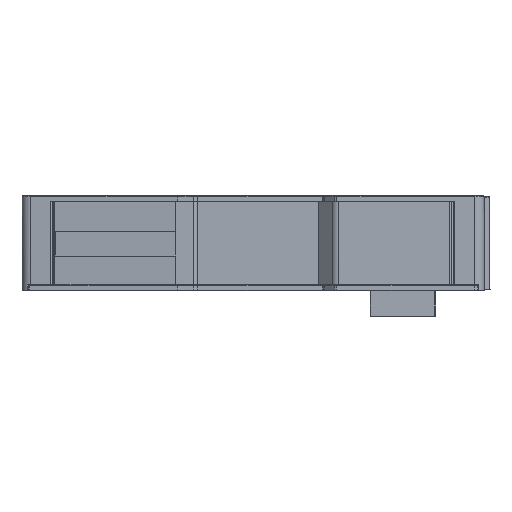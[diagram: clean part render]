
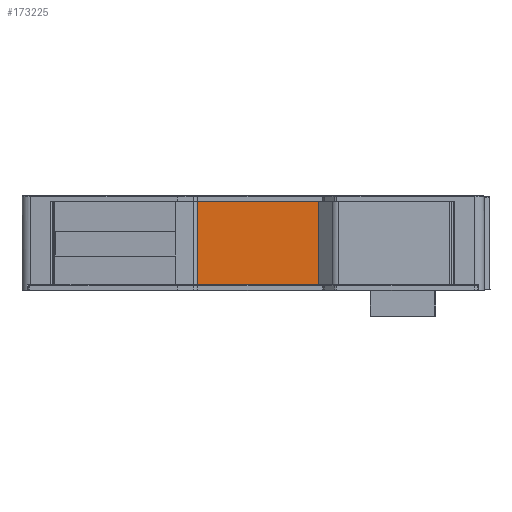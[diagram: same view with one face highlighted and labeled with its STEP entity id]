
A CAD part, front view. The second image highlights one B-rep face of the part: STEP entity #173225.
In plain terms, the highlighted planar face has unit normal (0, -1, 0).
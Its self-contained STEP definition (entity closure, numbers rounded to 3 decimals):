
#8375 = EDGE_LOOP ( 'NONE', ( #19257, #153695, #119865, #186319 ) ) ;
#12151 = CARTESIAN_POINT ( 'NONE',  ( 0., 0.264, 22. ) ) ;
#13182 = LINE ( 'NONE', #25423, #200024 ) ;
#19257 = ORIENTED_EDGE ( 'NONE', *, *, #37570, .F. ) ;
#23047 = VERTEX_POINT ( 'NONE', #94573 ) ;
#25423 = CARTESIAN_POINT ( 'NONE',  ( 0., 0.264, 0. ) ) ;
#30257 = CARTESIAN_POINT ( 'NONE',  ( 43.4, 0.264, 0. ) ) ;
#37570 = EDGE_CURVE ( 'NONE', #72712, #61419, #138312, .T. ) ;
#41158 = EDGE_CURVE ( 'NONE', #23047, #61419, #114216, .T. ) ;
#51918 = CARTESIAN_POINT ( 'NONE',  ( 43.7, 0.264, 0. ) ) ;
#55124 = CARTESIAN_POINT ( 'NONE',  ( 43.7, 0.264, 22. ) ) ;
#59156 = CARTESIAN_POINT ( 'NONE',  ( 77.3, 0.264, 22. ) ) ;
#61419 = VERTEX_POINT ( 'NONE', #59156 ) ;
#63315 = EDGE_CURVE ( 'NONE', #72712, #104700, #179238, .T. ) ;
#66622 = DIRECTION ( 'NONE',  ( 0., -1., 0. ) ) ;
#66719 = DIRECTION ( 'NONE',  ( 1., 0., 0. ) ) ;
#70039 = DIRECTION ( 'NONE',  ( 0., 0., -1. ) ) ;
#72712 = VERTEX_POINT ( 'NONE', #55124 ) ;
#77279 = VECTOR ( 'NONE', #70039, 1000. ) ;
#94573 = CARTESIAN_POINT ( 'NONE',  ( 77.3, 0.264, 0. ) ) ;
#104700 = VERTEX_POINT ( 'NONE', #212464 ) ;
#105737 = CARTESIAN_POINT ( 'NONE',  ( 77.3, 0.264, 0. ) ) ;
#114216 = LINE ( 'NONE', #105737, #156634 ) ;
#119865 = ORIENTED_EDGE ( 'NONE', *, *, #179592, .T. ) ;
#130754 = FACE_OUTER_BOUND ( 'NONE', #8375, .T. ) ;
#138312 = LINE ( 'NONE', #12151, #228960 ) ;
#140876 = AXIS2_PLACEMENT_3D ( 'NONE', #30257, #66622, #193243 ) ;
#153695 = ORIENTED_EDGE ( 'NONE', *, *, #63315, .T. ) ;
#156634 = VECTOR ( 'NONE', #197519, 1000. ) ;
#173225 = ADVANCED_FACE ( 'NONE', ( #130754 ), #174242, .T. ) ;
#174242 = PLANE ( 'NONE',  #140876 ) ;
#179238 = LINE ( 'NONE', #51918, #77279 ) ;
#179592 = EDGE_CURVE ( 'NONE', #104700, #23047, #13182, .T. ) ;
#186319 = ORIENTED_EDGE ( 'NONE', *, *, #41158, .T. ) ;
#187599 = DIRECTION ( 'NONE',  ( 1., 0., 0. ) ) ;
#193243 = DIRECTION ( 'NONE',  ( 0., 0., -1. ) ) ;
#197519 = DIRECTION ( 'NONE',  ( 0., 0., 1. ) ) ;
#200024 = VECTOR ( 'NONE', #187599, 1000. ) ;
#212464 = CARTESIAN_POINT ( 'NONE',  ( 43.7, 0.264, 0. ) ) ;
#228960 = VECTOR ( 'NONE', #66719, 1000. ) ;
